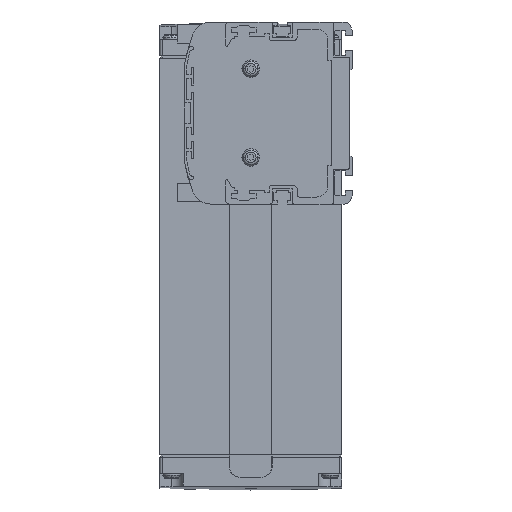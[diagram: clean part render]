
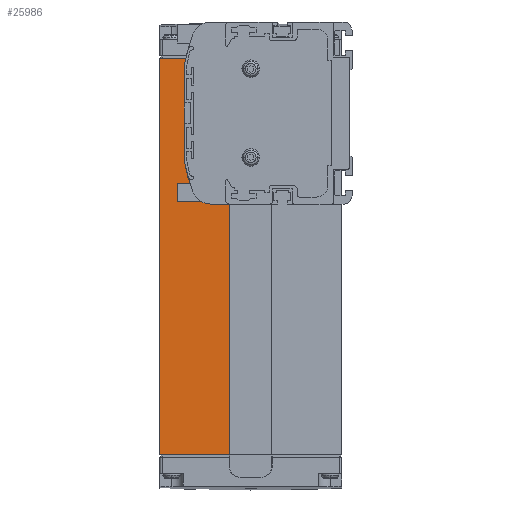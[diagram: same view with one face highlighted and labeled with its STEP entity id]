
A CAD part, left-side view. The second image highlights one B-rep face of the part: STEP entity #25986.
In plain terms, the highlighted planar face has unit normal (-1, 0, 0).
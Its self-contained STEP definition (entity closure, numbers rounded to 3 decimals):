
#3504=DIRECTION('',(0.,-1.,0.));
#3505=VECTOR('',#3504,8.155);
#3506=CARTESIAN_POINT('',(3.,60.755,-39.));
#3507=LINE('',#3506,#3505);
#3542=DIRECTION('',(0.,-1.,0.));
#3543=VECTOR('',#3542,29.9);
#3544=CARTESIAN_POINT('',(3.,82.5,-146.5));
#3545=LINE('',#3544,#3543);
#3546=DIRECTION('',(0.,1.,0.));
#3547=VECTOR('',#3546,11.203);
#3548=CARTESIAN_POINT('',(3.,71.297,23.5));
#3549=LINE('',#3548,#3547);
#3566=DIRECTION('',(0.,0.,1.));
#3567=VECTOR('',#3566,107.5);
#3568=CARTESIAN_POINT('',(3.,52.6,-146.5));
#3569=LINE('',#3568,#3567);
#3570=DIRECTION('',(0.,1.,0.));
#3571=VECTOR('',#3570,0.209);
#3572=CARTESIAN_POINT('',(3.,70.291,-27.5));
#3573=LINE('',#3572,#3571);
#3594=DIRECTION('',(0.,0.,1.));
#3595=VECTOR('',#3594,0.762);
#3596=CARTESIAN_POINT('',(3.,70.5,-27.5));
#3597=LINE('',#3596,#3595);
#9364=CARTESIAN_POINT('',(3.,-6.765,6.));
#9365=DIRECTION('',(1.,0.,0.));
#9366=DIRECTION('',(0.,0.984,0.177));
#9367=AXIS2_PLACEMENT_3D('',#9364,#9365,#9366);
#9369=CARTESIAN_POINT('',(3.,70.,19.823));
#9370=DIRECTION('',(1.,0.,0.));
#9371=DIRECTION('',(0.,1.,0.));
#9372=AXIS2_PLACEMENT_3D('',#9369,#9370,#9371);
#9378=DIRECTION('',(0.,0.,1.));
#9379=VECTOR('',#9378,39.645);
#9380=CARTESIAN_POINT('',(3.,72.,-19.823));
#9381=LINE('',#9380,#9379);
#9386=CARTESIAN_POINT('',(3.,70.,-19.823));
#9387=DIRECTION('',(-1.,0.,0.));
#9388=DIRECTION('',(0.,1.,0.));
#9389=AXIS2_PLACEMENT_3D('',#9386,#9387,#9388);
#9399=CARTESIAN_POINT('',(3.,-6.765,-6.));
#9400=DIRECTION('',(1.,0.,0.));
#9401=DIRECTION('',(0.,0.938,-0.347));
#9402=AXIS2_PLACEMENT_3D('',#9399,#9400,#9401);
#9404=CARTESIAN_POINT('',(3.,-6.765,-6.));
#9405=DIRECTION('',(1.,0.,0.));
#9406=DIRECTION('',(0.,0.966,-0.259));
#9407=AXIS2_PLACEMENT_3D('',#9404,#9405,#9406);
#9413=CARTESIAN_POINT('',(3.,60.755,-31.));
#9414=DIRECTION('',(1.,0.,0.));
#9415=DIRECTION('',(0.,0.,-1.));
#9416=AXIS2_PLACEMENT_3D('',#9413,#9414,#9415);
#11909=DIRECTION('',(0.,0.,1.));
#11910=VECTOR('',#11909,170.);
#11911=CARTESIAN_POINT('',(3.,82.5,-146.5));
#11912=LINE('',#11911,#11910);
#17142=CARTESIAN_POINT('',(3.,82.5,23.5));
#17143=VERTEX_POINT('',#17142);
#17188=CARTESIAN_POINT('',(3.,82.5,-146.5));
#17189=VERTEX_POINT('',#17188);
#17190=CARTESIAN_POINT('',(3.,52.6,-146.5));
#17191=VERTEX_POINT('',#17190);
#17220=CARTESIAN_POINT('',(3.,70.5,-27.5));
#17222=VERTEX_POINT('',#17220);
#21053=CARTESIAN_POINT('',(3.,60.755,-39.));
#21054=CARTESIAN_POINT('',(3.,52.6,-39.));
#21055=VERTEX_POINT('',#21053);
#21056=VERTEX_POINT('',#21054);
#21057=CARTESIAN_POINT('',(3.,71.297,23.5));
#21059=VERTEX_POINT('',#21057);
#21067=CARTESIAN_POINT('',(3.,70.5,-26.738));
#21068=VERTEX_POINT('',#21067);
#21071=CARTESIAN_POINT('',(3.,70.291,-27.5));
#21073=VERTEX_POINT('',#21071);
#21083=CARTESIAN_POINT('',(3.,72.,19.823));
#21084=CARTESIAN_POINT('',(3.,71.968,20.177));
#21085=VERTEX_POINT('',#21083);
#21086=VERTEX_POINT('',#21084);
#21099=CARTESIAN_POINT('',(3.,68.257,-33.778));
#21100=VERTEX_POINT('',#21099);
#21101=CARTESIAN_POINT('',(3.,71.968,-20.177));
#21102=VERTEX_POINT('',#21101);
#21103=CARTESIAN_POINT('',(3.,72.,-19.823));
#21104=VERTEX_POINT('',#21103);
#25952=CARTESIAN_POINT('',(3.,67.55,-61.5));
#25953=DIRECTION('',(1.,0.,0.));
#25954=DIRECTION('',(0.,1.,0.));
#25955=AXIS2_PLACEMENT_3D('',#25952,#25953,#25954);
#25956=PLANE('',#25955);
#25957=ORIENTED_EDGE('',*,*,#25920,.T.);
#25959=ORIENTED_EDGE('',*,*,#25958,.F.);
#25961=ORIENTED_EDGE('',*,*,#25960,.F.);
#25963=ORIENTED_EDGE('',*,*,#25962,.T.);
#25965=ORIENTED_EDGE('',*,*,#25964,.F.);
#25967=ORIENTED_EDGE('',*,*,#25966,.F.);
#25969=ORIENTED_EDGE('',*,*,#25968,.F.);
#25971=ORIENTED_EDGE('',*,*,#25970,.F.);
#25973=ORIENTED_EDGE('',*,*,#25972,.T.);
#25975=ORIENTED_EDGE('',*,*,#25974,.F.);
#25977=ORIENTED_EDGE('',*,*,#25976,.F.);
#25979=ORIENTED_EDGE('',*,*,#25978,.F.);
#25981=ORIENTED_EDGE('',*,*,#25980,.F.);
#25983=ORIENTED_EDGE('',*,*,#25982,.F.);
#25984=EDGE_LOOP('',(#25957,#25959,#25961,#25963,#25965,#25967,#25969,#25971,
#25973,#25975,#25977,#25979,#25981,#25983));
#25985=FACE_OUTER_BOUND('',#25984,.F.);
#25986=ADVANCED_FACE('',(#25985),#25956,.F.);
#9368=CIRCLE('',#9367,80.);
#9373=CIRCLE('',#9372,2.);
#9390=CIRCLE('',#9389,2.);
#9403=CIRCLE('',#9402,80.);
#9408=CIRCLE('',#9407,80.);
#9417=CIRCLE('',#9416,8.);
#25920=EDGE_CURVE('',#21055,#21056,#3507,.T.);
#25958=EDGE_CURVE('',#17191,#21056,#3569,.T.);
#25960=EDGE_CURVE('',#17189,#17191,#3545,.T.);
#25962=EDGE_CURVE('',#17189,#17143,#11912,.T.);
#25964=EDGE_CURVE('',#21059,#17143,#3549,.T.);
#25966=EDGE_CURVE('',#21086,#21059,#9368,.T.);
#25968=EDGE_CURVE('',#21085,#21086,#9373,.T.);
#25970=EDGE_CURVE('',#21104,#21085,#9381,.T.);
#25972=EDGE_CURVE('',#21104,#21102,#9390,.T.);
#25974=EDGE_CURVE('',#21068,#21102,#9408,.T.);
#25976=EDGE_CURVE('',#17222,#21068,#3597,.T.);
#25978=EDGE_CURVE('',#21073,#17222,#3573,.T.);
#25980=EDGE_CURVE('',#21100,#21073,#9403,.T.);
#25982=EDGE_CURVE('',#21055,#21100,#9417,.T.);
